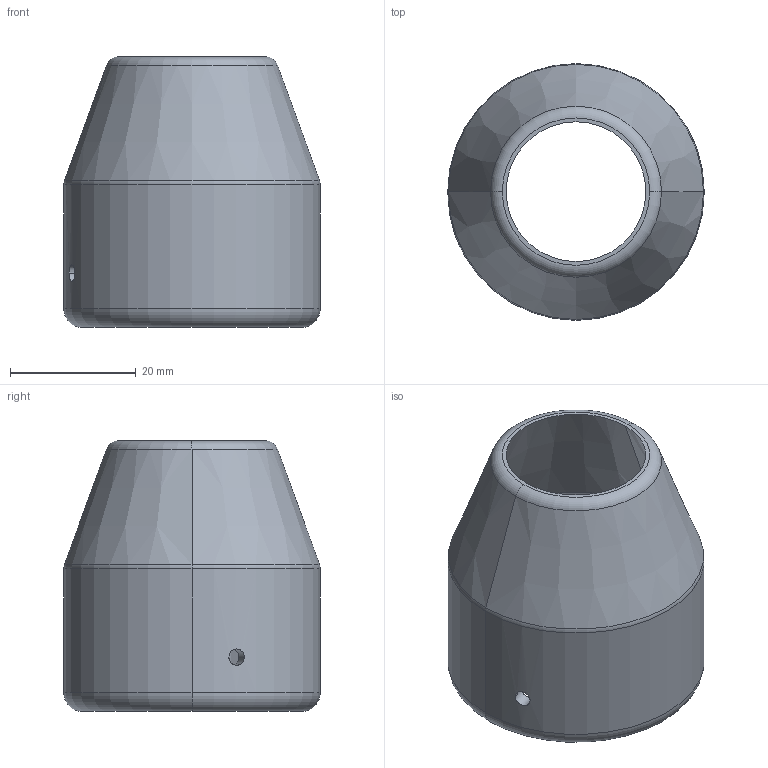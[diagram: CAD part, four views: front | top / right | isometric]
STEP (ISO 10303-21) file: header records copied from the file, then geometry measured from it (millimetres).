
FILE_DESCRIPTION (( 'STEP AP214' ), '1' );
FILE_NAME ('light-shielding.STEP', '2026-04-21T02:56:10', ( '' ), ( '' ), 'SwSTEP 2.0', 'SolidWorks 2024', '' );
FILE_SCHEMA (( 'AUTOMOTIVE_DESIGN' ));
Length unit declared in the file: millimetre
Products named in the file (1): light-shielding
Bounding box: 40.8 x 40.8 x 43 mm (x, y, z)
Volume: 10748.3 mm3; surface area: 9992.6 mm2
Topology: 1 solids, 1 shells, 19 faces, 42 edges, 24 vertices
Faces by surface type: cylinder 8, torus 6, cone 4, plane 1
Entity records: 739 total; most frequent: CARTESIAN_POINT 262, DIRECTION 96, ORIENTED_EDGE 84, EDGE_CURVE 42, AXIS2_PLACEMENT_3D 42, EDGE_LOOP 24, VERTEX_POINT 24, CIRCLE 22
